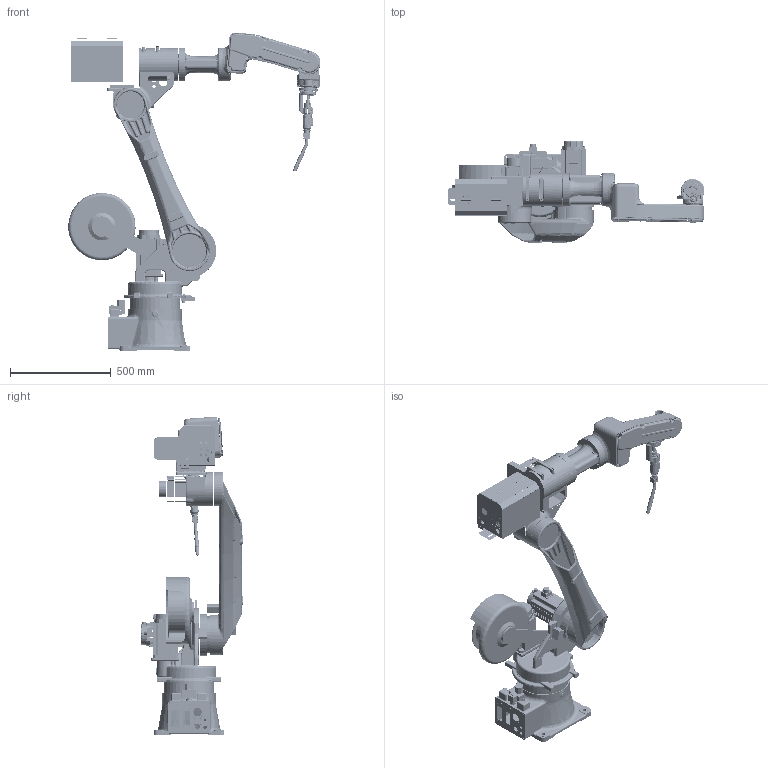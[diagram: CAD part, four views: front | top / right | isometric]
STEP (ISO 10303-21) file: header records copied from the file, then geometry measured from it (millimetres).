
FILE_DESCRIPTION((''),'2;1');
FILE_NAME('LHZ2000-B-6_ASM','2022-11-03T19:41:44',('EBDGC-08'),(''),'CREO PARAMETRIC BY PTC INC, 2021063','CREO PARAMETRIC BY PTC INC, 2021063','');
FILE_SCHEMA(('AUTOMOTIVE_DESIGN { 1 0 10303 214 1 1 1 1 }'));
Products named in the file (7): 00000; PRT0002; PRT0003; 11-3; 11-3-1; 03030; LHZ2000-B-6_ASM
Assembly tree (6 placements, depth 2):
  LHZ2000-B-6_ASM
    00000
    PRT0002
    PRT0003
    11-3
    11-3-1
    03030
Bounding box: 1272.5 x 502.48 x 1580.77 mm (x, y, z)
Surface area: 5741844.5 mm2 (no closed solid volume)
Topology: 0 solids, 318 shells, 3024 faces, 11656 edges, 8741 vertices
Faces by surface type: cylinder 1070, plane 913, bspline 422, torus 361, cone 208, sphere 43, revolution 4, extrusion 3
Entity records: 190065 total; most frequent: CARTESIAN_POINT 66527, DIRECTION 19657, ORIENTED_EDGE 17710, EDGE_CURVE 11615, VERTEX_POINT 8741, AXIS2_PLACEMENT_3D 7759, PRESENTATION_STYLE_ASSIGNMENT 6623, STYLED_ITEM 6623
